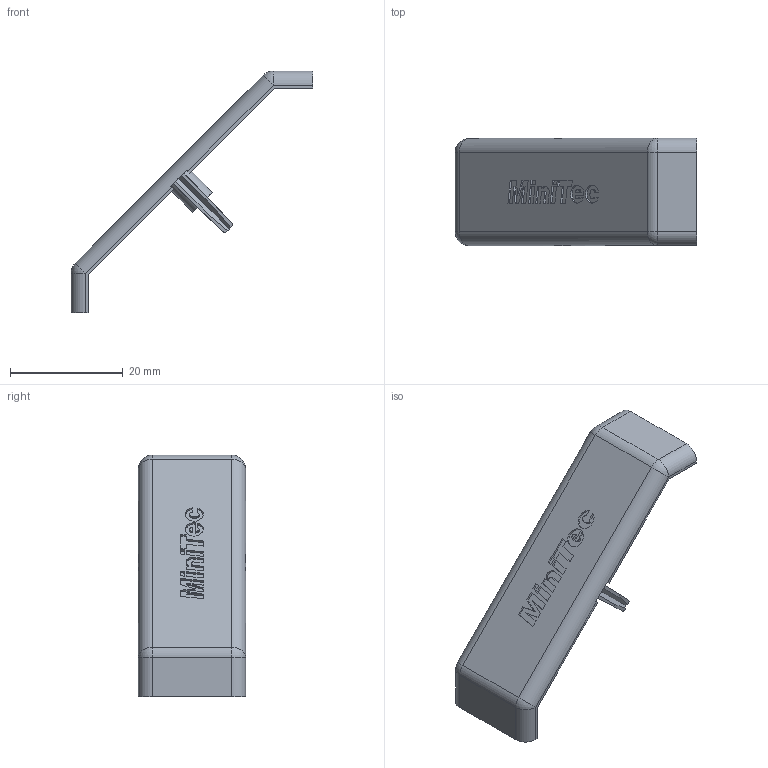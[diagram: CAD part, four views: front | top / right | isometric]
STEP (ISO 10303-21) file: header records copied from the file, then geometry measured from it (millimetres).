
FILE_DESCRIPTION((''),'2;1');
FILE_NAME('C:\Andys Backup Data\WEBSITE\DREAMWEAVER\MiniTec\Products\Profile_Fasteners\CAD\Step\22.1139_1 END CAP FOR ANGLE 19.stp','2013-06-21T15:05:26',('Admin'),(''),'Autodesk Inventor 2012','Autodesk Inventor 2012','');
FILE_SCHEMA(('AUTOMOTIVE_DESIGN { 1 0 10303 214 1 1 1 1 }'));
Length unit declared in the file: millimetre
Products named in the file (1): 22.1139_1 END CAP FOR ANGLE 19
Bounding box: 42.8 x 19 x 42.8 mm (x, y, z)
Volume: 3182.6 mm3; surface area: 3251.8 mm2
Topology: 1 solids, 1 shells, 134 faces, 351 edges, 230 vertices
Faces by surface type: plane 109, cylinder 15, bspline 6, sphere 4
Entity records: 4177 total; most frequent: CARTESIAN_POINT 818, ORIENTED_EDGE 702, DIRECTION 663, EDGE_CURVE 351, VECTOR 297, LINE 297, VERTEX_POINT 230, AXIS2_PLACEMENT_3D 183
